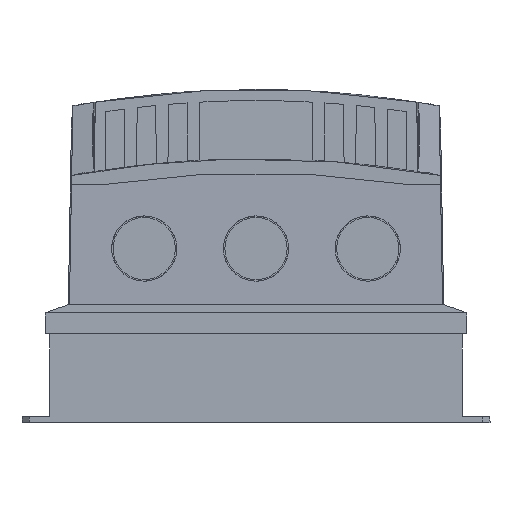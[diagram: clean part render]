
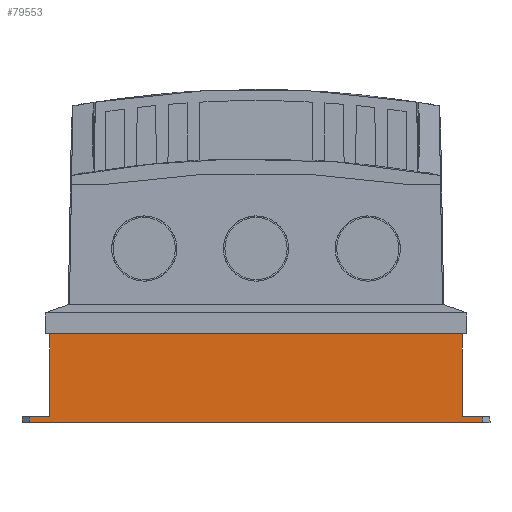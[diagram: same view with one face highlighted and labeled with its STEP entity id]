
A CAD part, front view. The second image highlights one B-rep face of the part: STEP entity #79553.
In plain terms, the highlighted planar face has unit normal (0, -1, 0).
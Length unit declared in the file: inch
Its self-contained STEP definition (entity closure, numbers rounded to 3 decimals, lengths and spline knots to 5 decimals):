
#2033 = ORIENTED_EDGE ( 'NONE', *, *, #92180, .F. ) ;
#2447 = CARTESIAN_POINT ( 'NONE',  ( 3.04, -3.94, -1.14 ) ) ;
#2529 = ORIENTED_EDGE ( 'NONE', *, *, #51093, .F. ) ;
#3033 = CARTESIAN_POINT ( 'NONE',  ( 2.77, -3.94, -1.14 ) ) ;
#3749 = EDGE_CURVE ( 'NONE', #12072, #105052, #100620, .T. ) ;
#4771 = VERTEX_POINT ( 'NONE', #76772 ) ;
#8079 = ORIENTED_EDGE ( 'NONE', *, *, #9810, .T. ) ;
#9003 = CARTESIAN_POINT ( 'NONE',  ( 3.04, -3.94, -1.22 ) ) ;
#9374 = DIRECTION ( 'NONE',  ( -1., 0., 0. ) ) ;
#9749 = EDGE_CURVE ( 'NONE', #24898, #112050, #48851, .T. ) ;
#9810 = EDGE_CURVE ( 'NONE', #105052, #110184, #79325, .T. ) ;
#10435 = VECTOR ( 'NONE', #99217, 39.37008 ) ;
#12072 = VERTEX_POINT ( 'NONE', #70894 ) ;
#15178 = DIRECTION ( 'NONE',  ( -1., 0., 0. ) ) ;
#17641 = EDGE_CURVE ( 'NONE', #4771, #100347, #64399, .T. ) ;
#17667 = ORIENTED_EDGE ( 'NONE', *, *, #9749, .T. ) ;
#24743 = AXIS2_PLACEMENT_3D ( 'NONE', #26752, #43912, #109775 ) ;
#24898 = VERTEX_POINT ( 'NONE', #9003 ) ;
#26752 = CARTESIAN_POINT ( 'NONE',  ( -2.77, -3.94, -1.14 ) ) ;
#27101 = ORIENTED_EDGE ( 'NONE', *, *, #85830, .T. ) ;
#27103 = ORIENTED_EDGE ( 'NONE', *, *, #17641, .T. ) ;
#29857 = DIRECTION ( 'NONE',  ( 0., 0., -1. ) ) ;
#31413 = VECTOR ( 'NONE', #111726, 39.37008 ) ;
#33848 = VECTOR ( 'NONE', #115263, 39.37008 ) ;
#37409 = CARTESIAN_POINT ( 'NONE',  ( -3.04, -3.94, -1.22 ) ) ;
#38418 = ORIENTED_EDGE ( 'NONE', *, *, #39310, .F. ) ;
#39310 = EDGE_CURVE ( 'NONE', #24898, #110184, #80953, .T. ) ;
#39714 = DIRECTION ( 'NONE',  ( 0., 0., 1. ) ) ;
#42741 = CARTESIAN_POINT ( 'NONE',  ( -2.77, -3.94, -1.14 ) ) ;
#43165 = CARTESIAN_POINT ( 'NONE',  ( 3.14, -3.94, -1.22 ) ) ;
#43912 = DIRECTION ( 'NONE',  ( 0., 1., 0. ) ) ;
#45789 = VECTOR ( 'NONE', #15178, 39.37008 ) ;
#48851 = LINE ( 'NONE', #2447, #78581 ) ;
#49346 = LINE ( 'NONE', #97487, #33848 ) ;
#51093 = EDGE_CURVE ( 'NONE', #61237, #112050, #112917, .T. ) ;
#52009 = CARTESIAN_POINT ( 'NONE',  ( 3.04, -3.94, -1.14 ) ) ;
#53031 = FACE_OUTER_BOUND ( 'NONE', #57290, .T. ) ;
#57290 = EDGE_LOOP ( 'NONE', ( #2033, #27103, #27101, #84280, #8079, #38418, #17667, #2529 ) ) ;
#58909 = VECTOR ( 'NONE', #29857, 39.37008 ) ;
#61237 = VERTEX_POINT ( 'NONE', #99724 ) ;
#64399 = LINE ( 'NONE', #110165, #77063 ) ;
#70789 = CARTESIAN_POINT ( 'NONE',  ( -3.04, -3.94, -1.14 ) ) ;
#70894 = CARTESIAN_POINT ( 'NONE',  ( -2.77, -3.94, -1.14 ) ) ;
#72412 = CARTESIAN_POINT ( 'NONE',  ( -2.77, -3.94, -0.03 ) ) ;
#73337 = LINE ( 'NONE', #101405, #58909 ) ;
#73716 = PLANE ( 'NONE',  #24743 ) ;
#76772 = CARTESIAN_POINT ( 'NONE',  ( 2.77, -3.94, -0.03 ) ) ;
#77063 = VECTOR ( 'NONE', #9374, 39.37008 ) ;
#78581 = VECTOR ( 'NONE', #39714, 39.37008 ) ;
#78709 = CARTESIAN_POINT ( 'NONE',  ( -3.04, -3.94, -1.14 ) ) ;
#79325 = LINE ( 'NONE', #70789, #98133 ) ;
#79553 = ADVANCED_FACE ( 'NONE', ( #53031 ), #73716, .F. ) ;
#80953 = LINE ( 'NONE', #43165, #10435 ) ;
#81131 = DIRECTION ( 'NONE',  ( 0., 0., -1. ) ) ;
#84280 = ORIENTED_EDGE ( 'NONE', *, *, #3749, .T. ) ;
#85830 = EDGE_CURVE ( 'NONE', #100347, #12072, #73337, .T. ) ;
#92180 = EDGE_CURVE ( 'NONE', #4771, #61237, #49346, .T. ) ;
#97487 = CARTESIAN_POINT ( 'NONE',  ( 2.77, -3.94, -0.02 ) ) ;
#98133 = VECTOR ( 'NONE', #81131, 39.37008 ) ;
#99217 = DIRECTION ( 'NONE',  ( -1., 0., 0. ) ) ;
#99724 = CARTESIAN_POINT ( 'NONE',  ( 2.77, -3.94, -1.14 ) ) ;
#100347 = VERTEX_POINT ( 'NONE', #72412 ) ;
#100620 = LINE ( 'NONE', #42741, #45789 ) ;
#101405 = CARTESIAN_POINT ( 'NONE',  ( -2.77, -3.94, -0.02 ) ) ;
#105052 = VERTEX_POINT ( 'NONE', #78709 ) ;
#109775 = DIRECTION ( 'NONE',  ( -1., 0., 0. ) ) ;
#110165 = CARTESIAN_POINT ( 'NONE',  ( -2.79, -3.94, -0.03 ) ) ;
#110184 = VERTEX_POINT ( 'NONE', #37409 ) ;
#111726 = DIRECTION ( 'NONE',  ( 1., 0., 0. ) ) ;
#112050 = VERTEX_POINT ( 'NONE', #52009 ) ;
#112917 = LINE ( 'NONE', #3033, #31413 ) ;
#115263 = DIRECTION ( 'NONE',  ( 0., 0., -1. ) ) ;
